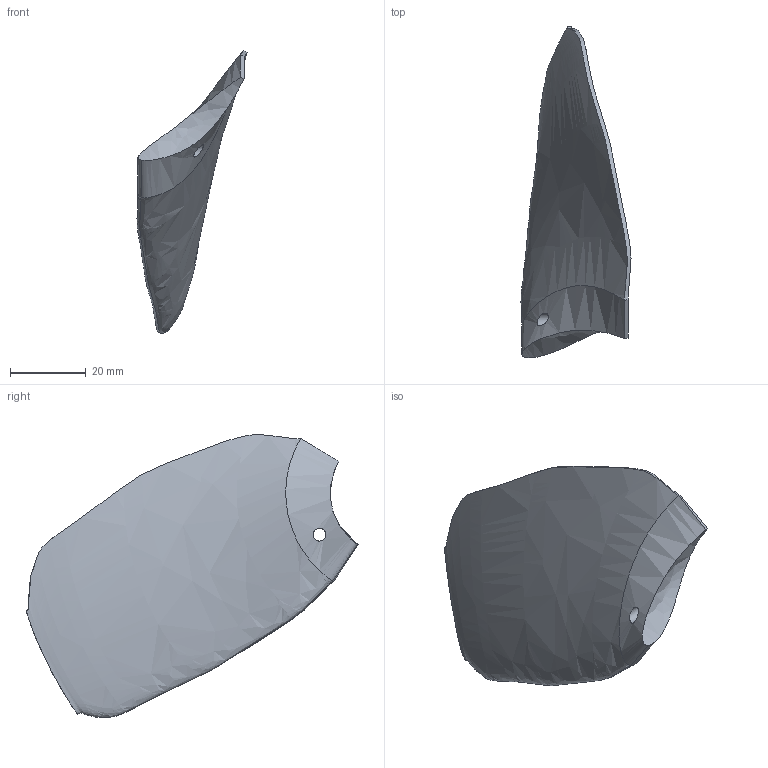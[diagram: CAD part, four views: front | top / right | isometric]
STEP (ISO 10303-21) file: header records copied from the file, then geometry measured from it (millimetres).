
FILE_DESCRIPTION(('Open CASCADE Model'),'2;1');
FILE_NAME('Open CASCADE Shape Model','2026-11-02T23:22:40',('Author'),( 'Open CASCADE'),'Open CASCADE STEP processor 7.9','Open CASCADE 7.9' ,'Unknown');
FILE_SCHEMA(('AUTOMOTIVE_DESIGN { 1 0 10303 214 1 1 1 1 }'));
Length unit declared in the file: millimetre
Products named in the file (1): Open CASCADE STEP translator 7.9 6
Bounding box: 29.12 x 87.81 x 74.84 mm (x, y, z)
Volume: 24705.6 mm3; surface area: 9961.1 mm2
Topology: 1 solids, 1 shells, 9 faces, 18 edges, 11 vertices
Faces by surface type: bspline 8, cylinder 1
Full cylindrical faces by diameter (mm): 3.4 x1
Entity records: 7280 total; most frequent: CARTESIAN_POINT 6975, ORIENTED_EDGE 36, PCURVE 36, DEFINITIONAL_REPRESENTATION 36, B_SPLINE_CURVE_WITH_KNOTS 30, DIRECTION 25, LINE 21, VECTOR 21
